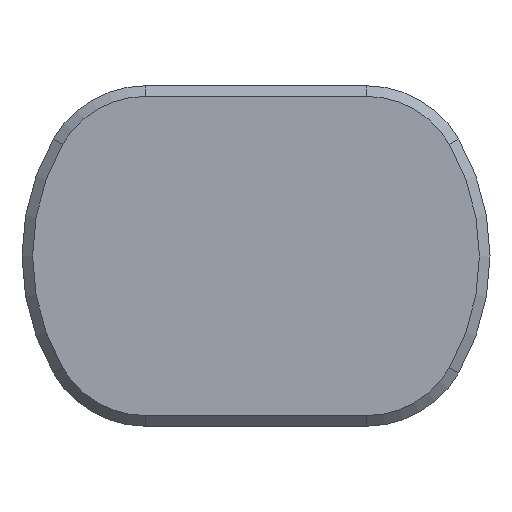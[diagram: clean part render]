
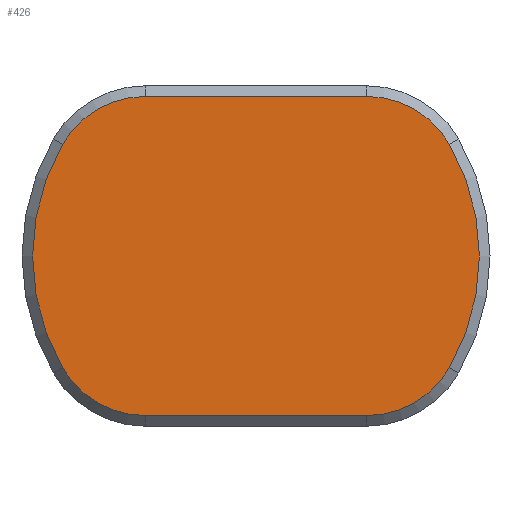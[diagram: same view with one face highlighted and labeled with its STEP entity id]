
A CAD part, left-side view. The second image highlights one B-rep face of the part: STEP entity #426.
In plain terms, the highlighted planar face has unit normal (-1, 0, 0).
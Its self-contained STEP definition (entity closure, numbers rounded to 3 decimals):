
#41=LINE('',#684,#73);
#42=LINE('',#692,#74);
#73=VECTOR('',#535,1000.);
#74=VECTOR('',#542,1000.);
#105=ORIENTED_EDGE('',*,*,#225,.F.);
#106=ORIENTED_EDGE('',*,*,#226,.T.);
#107=ORIENTED_EDGE('',*,*,#227,.T.);
#108=ORIENTED_EDGE('',*,*,#228,.T.);
#109=ORIENTED_EDGE('',*,*,#229,.F.);
#110=ORIENTED_EDGE('',*,*,#230,.T.);
#111=ORIENTED_EDGE('',*,*,#231,.T.);
#112=ORIENTED_EDGE('',*,*,#232,.T.);
#225=EDGE_CURVE('',#285,#286,#321,.T.);
#226=EDGE_CURVE('',#285,#287,#322,.F.);
#227=EDGE_CURVE('',#287,#288,#41,.T.);
#228=EDGE_CURVE('',#288,#289,#323,.F.);
#229=EDGE_CURVE('',#290,#289,#324,.T.);
#230=EDGE_CURVE('',#290,#291,#325,.F.);
#231=EDGE_CURVE('',#291,#292,#42,.T.);
#232=EDGE_CURVE('',#292,#286,#326,.F.);
#285=VERTEX_POINT('',#680);
#286=VERTEX_POINT('',#681);
#287=VERTEX_POINT('',#683);
#288=VERTEX_POINT('',#685);
#289=VERTEX_POINT('',#687);
#290=VERTEX_POINT('',#689);
#291=VERTEX_POINT('',#691);
#292=VERTEX_POINT('',#693);
#321=CIRCLE('',#470,10.5);
#322=CIRCLE('',#471,4.5);
#323=CIRCLE('',#472,4.5);
#324=CIRCLE('',#473,10.5);
#325=CIRCLE('',#474,4.5);
#326=CIRCLE('',#475,4.5);
#349=EDGE_LOOP('',(#105,#106,#107,#108,#109,#110,#111,#112));
#383=FACE_BOUND('',#349,.T.);
#417=PLANE('',#469);
#426=ADVANCED_FACE('',(#383),#417,.F.);
#469=AXIS2_PLACEMENT_3D('',#678,#529,#530);
#470=AXIS2_PLACEMENT_3D('',#679,#531,#532);
#471=AXIS2_PLACEMENT_3D('',#682,#533,#534);
#472=AXIS2_PLACEMENT_3D('',#686,#536,#537);
#473=AXIS2_PLACEMENT_3D('',#688,#538,#539);
#474=AXIS2_PLACEMENT_3D('',#690,#540,#541);
#475=AXIS2_PLACEMENT_3D('',#694,#543,#544);
#529=DIRECTION('',(1.,0.,0.));
#530=DIRECTION('',(0.,0.,-1.));
#531=DIRECTION('',(1.,0.,0.));
#532=DIRECTION('',(0.,0.,-1.));
#533=DIRECTION('',(1.,0.,0.));
#534=DIRECTION('',(0.,0.,-1.));
#535=DIRECTION('',(0.,-1.,0.));
#536=DIRECTION('',(1.,0.,0.));
#537=DIRECTION('',(0.,0.,-1.));
#538=DIRECTION('',(1.,0.,0.));
#539=DIRECTION('',(0.,0.,-1.));
#540=DIRECTION('',(1.,0.,0.));
#541=DIRECTION('',(0.,0.,-1.));
#542=DIRECTION('',(0.,1.,0.));
#543=DIRECTION('',(1.,0.,0.));
#544=DIRECTION('',(0.,0.,-1.));
#678=CARTESIAN_POINT('',(-6.,0.,0.));
#679=CARTESIAN_POINT('',(-6.,0.,0.));
#680=CARTESIAN_POINT('',(-6.,9.093,-5.25));
#681=CARTESIAN_POINT('',(-6.,9.093,5.25));
#682=CARTESIAN_POINT('',(-6.,5.196,-3.));
#683=CARTESIAN_POINT('',(-6.,5.196,-7.5));
#684=CARTESIAN_POINT('',(-6.,-5.196,-7.5));
#685=CARTESIAN_POINT('',(-6.,-5.196,-7.5));
#686=CARTESIAN_POINT('',(-6.,-5.196,-3.));
#687=CARTESIAN_POINT('',(-6.,-9.093,-5.25));
#688=CARTESIAN_POINT('',(-6.,0.,0.));
#689=CARTESIAN_POINT('',(-6.,-9.093,5.25));
#690=CARTESIAN_POINT('',(-6.,-5.196,3.));
#691=CARTESIAN_POINT('',(-6.,-5.196,7.5));
#692=CARTESIAN_POINT('',(-6.,5.196,7.5));
#693=CARTESIAN_POINT('',(-6.,5.196,7.5));
#694=CARTESIAN_POINT('',(-6.,5.196,3.));
